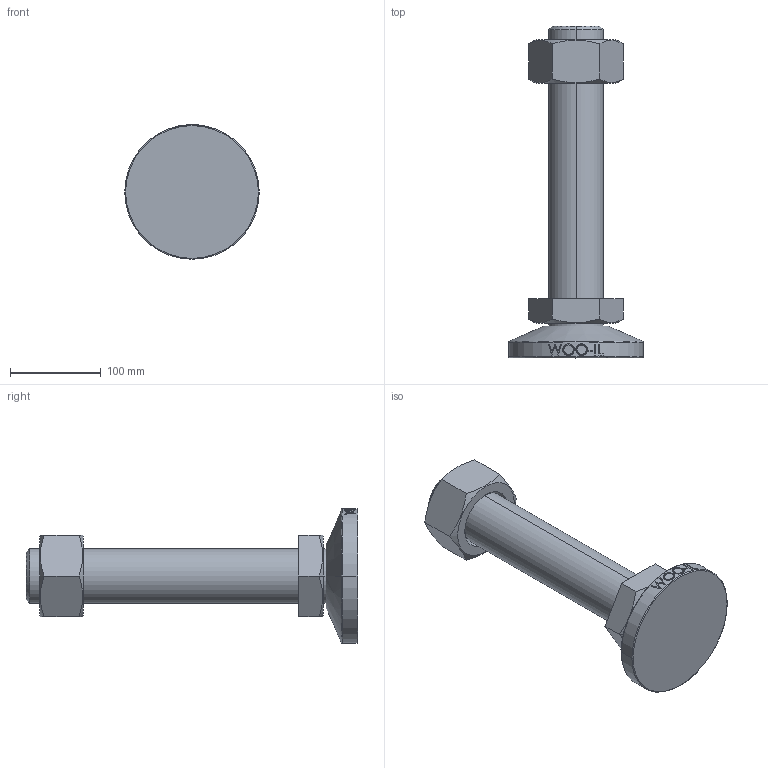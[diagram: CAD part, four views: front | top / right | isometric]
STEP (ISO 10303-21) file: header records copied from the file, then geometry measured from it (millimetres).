
FILE_DESCRIPTION (( 'STEP AP214' ), '1' );
FILE_NAME ('WTr60-148-Tr60-300.step', '2021-02-02T06:08:37', ( '' ), ( '' ), 'SwSTEP 2.0', 'SolidWorks 2019', '' );
FILE_SCHEMA (( 'AUTOMOTIVE_DESIGN' ));
Length unit declared in the file: millimetre
Products named in the file (2): WTr60-148-Tr60-300
Bounding box: 148 x 365 x 148 mm (x, y, z)
Volume: 1714995.9 mm3; surface area: 153214.8 mm2
Topology: 3 solids, 3 shells, 97 faces, 229 edges, 148 vertices
Faces by surface type: plane 47, cylinder 16, bspline 16, cone 14, torus 4
Entity records: 4562 total; most frequent: CARTESIAN_POINT 2398, ORIENTED_EDGE 458, DIRECTION 387, EDGE_CURVE 229, VERTEX_POINT 148, AXIS2_PLACEMENT_3D 145, EDGE_LOOP 109, LINE 97
